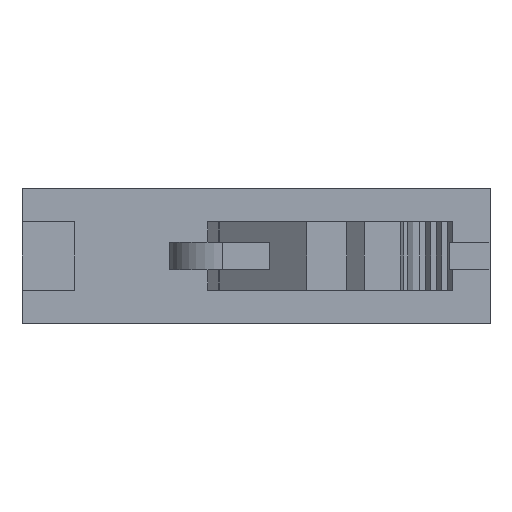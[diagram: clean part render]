
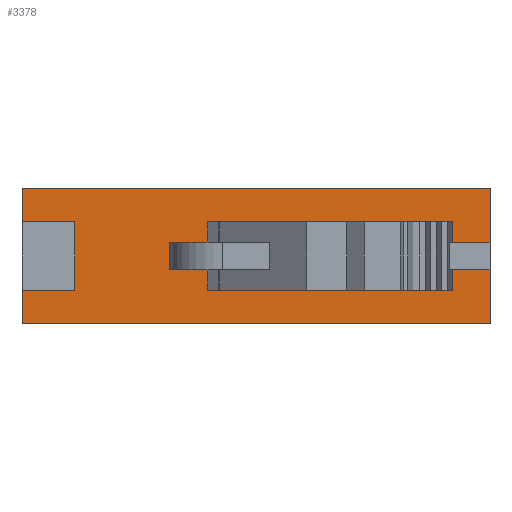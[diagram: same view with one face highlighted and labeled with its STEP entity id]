
A CAD part, front view. The second image highlights one B-rep face of the part: STEP entity #3378.
In plain terms, the highlighted planar face has unit normal (0, -1, 0).
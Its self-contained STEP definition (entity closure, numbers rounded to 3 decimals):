
#21=DIRECTION('',(0.,0.,-1.));
#22=VECTOR('',#21,6.2);
#23=CARTESIAN_POINT('',(4.8,8.9,-3.));
#24=LINE('',#23,#22);
#25=DIRECTION('',(1.,0.,0.));
#26=VECTOR('',#25,4.8);
#27=CARTESIAN_POINT('',(0.,8.9,-9.2));
#28=LINE('',#27,#26);
#29=DIRECTION('',(1.,0.,0.));
#30=VECTOR('',#29,4.8);
#31=CARTESIAN_POINT('',(0.,8.9,-3.));
#32=LINE('',#31,#30);
#33=DIRECTION('',(1.,0.,0.));
#34=VECTOR('',#33,42.5);
#35=CARTESIAN_POINT('',(0.,8.9,0.));
#36=LINE('',#35,#34);
#37=DIRECTION('',(-1.,0.,0.));
#38=VECTOR('',#37,42.5);
#39=CARTESIAN_POINT('',(42.5,8.9,-12.2));
#40=LINE('',#39,#38);
#133=DIRECTION('',(-1.,0.,0.));
#134=VECTOR('',#133,22.238);
#135=CARTESIAN_POINT('',(39.1,8.9,-9.2));
#136=LINE('',#135,#134);
#149=DIRECTION('',(0.,0.,-1.));
#150=VECTOR('',#149,3.);
#151=CARTESIAN_POINT('',(0.,8.9,-9.2));
#152=LINE('',#151,#150);
#165=DIRECTION('',(0.,0.,-1.));
#166=VECTOR('',#165,3.);
#167=CARTESIAN_POINT('',(0.,8.9,0.));
#168=LINE('',#167,#166);
#1044=DIRECTION('',(0.,0.,1.));
#1045=VECTOR('',#1044,4.85);
#1046=CARTESIAN_POINT('',(42.5,8.9,-12.2));
#1047=LINE('',#1046,#1045);
#1056=DIRECTION('',(0.,0.,1.));
#1057=VECTOR('',#1056,4.85);
#1058=CARTESIAN_POINT('',(42.5,8.9,-4.85));
#1059=LINE('',#1058,#1057);
#1072=DIRECTION('',(-1.,0.,0.));
#1073=VECTOR('',#1072,2.8);
#1074=CARTESIAN_POINT('',(42.5,8.9,-7.35));
#1075=LINE('',#1074,#1073);
#1108=DIRECTION('',(-1.,0.,0.));
#1109=VECTOR('',#1108,3.462);
#1110=CARTESIAN_POINT('',(16.862,8.9,-7.35));
#1111=LINE('',#1110,#1109);
#1121=DIRECTION('',(0.,0.,-1.));
#1122=VECTOR('',#1121,2.5);
#1123=CARTESIAN_POINT('',(39.7,8.9,-4.85));
#1124=LINE('',#1123,#1122);
#1129=DIRECTION('',(-1.,0.,0.));
#1130=VECTOR('',#1129,2.8);
#1131=CARTESIAN_POINT('',(42.5,8.9,-4.85));
#1132=LINE('',#1131,#1130);
#1150=DIRECTION('',(-1.,0.,0.));
#1151=VECTOR('',#1150,3.462);
#1152=CARTESIAN_POINT('',(16.862,8.9,-4.85));
#1153=LINE('',#1152,#1151);
#1254=DIRECTION('',(0.,0.,-1.));
#1255=VECTOR('',#1254,6.2);
#1256=CARTESIAN_POINT('',(39.1,8.9,-3.));
#1257=LINE('',#1256,#1255);
#1286=DIRECTION('',(1.,0.,0.));
#1287=VECTOR('',#1286,22.238);
#1288=CARTESIAN_POINT('',(16.862,8.9,-3.));
#1289=LINE('',#1288,#1287);
#1382=DIRECTION('',(0.,0.,1.));
#1383=VECTOR('',#1382,1.85);
#1384=CARTESIAN_POINT('',(16.862,8.9,-9.2));
#1385=LINE('',#1384,#1383);
#1390=DIRECTION('',(0.,0.,1.));
#1391=VECTOR('',#1390,1.85);
#1392=CARTESIAN_POINT('',(16.862,8.9,-4.85));
#1393=LINE('',#1392,#1391);
#1406=DIRECTION('',(0.,0.,-1.));
#1407=VECTOR('',#1406,2.5);
#1408=CARTESIAN_POINT('',(13.4,8.9,-4.85));
#1409=LINE('',#1408,#1407);
#2505=CARTESIAN_POINT('',(0.,8.9,-12.2));
#2506=VERTEX_POINT('',#2505);
#2507=CARTESIAN_POINT('',(42.5,8.9,-12.2));
#2508=VERTEX_POINT('',#2507);
#2757=CARTESIAN_POINT('',(42.5,8.9,0.));
#2758=VERTEX_POINT('',#2757);
#2759=CARTESIAN_POINT('',(0.,8.9,0.));
#2760=VERTEX_POINT('',#2759);
#3063=CARTESIAN_POINT('',(42.5,8.9,-4.85));
#3064=CARTESIAN_POINT('',(39.7,8.9,-4.85));
#3065=VERTEX_POINT('',#3063);
#3066=VERTEX_POINT('',#3064);
#3067=CARTESIAN_POINT('',(13.4,8.9,-4.85));
#3068=CARTESIAN_POINT('',(13.4,8.9,-7.35));
#3069=VERTEX_POINT('',#3067);
#3070=VERTEX_POINT('',#3068);
#3071=CARTESIAN_POINT('',(39.7,8.9,-7.35));
#3072=VERTEX_POINT('',#3071);
#3073=CARTESIAN_POINT('',(42.5,8.9,-7.35));
#3074=VERTEX_POINT('',#3073);
#3075=CARTESIAN_POINT('',(16.862,8.9,-3.));
#3076=VERTEX_POINT('',#3075);
#3077=CARTESIAN_POINT('',(16.862,8.9,-9.2));
#3078=VERTEX_POINT('',#3077);
#3211=CARTESIAN_POINT('',(0.,8.9,-9.2));
#3212=CARTESIAN_POINT('',(4.8,8.9,-9.2));
#3213=VERTEX_POINT('',#3211);
#3214=VERTEX_POINT('',#3212);
#3215=CARTESIAN_POINT('',(0.,8.9,-3.));
#3216=CARTESIAN_POINT('',(4.8,8.9,-3.));
#3217=VERTEX_POINT('',#3215);
#3218=VERTEX_POINT('',#3216);
#3225=CARTESIAN_POINT('',(16.862,8.9,-4.85));
#3226=VERTEX_POINT('',#3225);
#3233=CARTESIAN_POINT('',(16.862,8.9,-7.35));
#3234=VERTEX_POINT('',#3233);
#3235=CARTESIAN_POINT('',(39.1,8.9,-9.2));
#3236=VERTEX_POINT('',#3235);
#3237=CARTESIAN_POINT('',(39.1,8.9,-3.));
#3238=VERTEX_POINT('',#3237);
#3330=CARTESIAN_POINT('',(21.25,8.9,-10.5));
#3331=DIRECTION('',(0.,1.,0.));
#3332=DIRECTION('',(-1.,0.,0.));
#3333=AXIS2_PLACEMENT_3D('',#3330,#3331,#3332);
#3334=PLANE('',#3333);
#3336=ORIENTED_EDGE('',*,*,#3335,.T.);
#3337=ORIENTED_EDGE('',*,*,#3320,.F.);
#3339=ORIENTED_EDGE('',*,*,#3338,.F.);
#3341=ORIENTED_EDGE('',*,*,#3340,.F.);
#3343=ORIENTED_EDGE('',*,*,#3342,.T.);
#3345=ORIENTED_EDGE('',*,*,#3344,.F.);
#3347=ORIENTED_EDGE('',*,*,#3346,.T.);
#3349=ORIENTED_EDGE('',*,*,#3348,.T.);
#3351=ORIENTED_EDGE('',*,*,#3350,.F.);
#3353=ORIENTED_EDGE('',*,*,#3352,.F.);
#3355=ORIENTED_EDGE('',*,*,#3354,.T.);
#3357=ORIENTED_EDGE('',*,*,#3356,.F.);
#3358=EDGE_LOOP('',(#3336,#3337,#3339,#3341,#3343,#3345,#3347,#3349,#3351,#3353,
#3355,#3357));
#3359=FACE_OUTER_BOUND('',#3358,.F.);
#3361=ORIENTED_EDGE('',*,*,#3360,.F.);
#3363=ORIENTED_EDGE('',*,*,#3362,.F.);
#3365=ORIENTED_EDGE('',*,*,#3364,.F.);
#3367=ORIENTED_EDGE('',*,*,#3366,.F.);
#3369=ORIENTED_EDGE('',*,*,#3368,.T.);
#3371=ORIENTED_EDGE('',*,*,#3370,.T.);
#3373=ORIENTED_EDGE('',*,*,#3372,.F.);
#3375=ORIENTED_EDGE('',*,*,#3374,.F.);
#3376=EDGE_LOOP('',(#3361,#3363,#3365,#3367,#3369,#3371,#3373,#3375));
#3377=FACE_BOUND('',#3376,.F.);
#3378=ADVANCED_FACE('',(#3359,#3377),#3334,.F.);
#3320=EDGE_CURVE('',#3218,#3214,#24,.T.);
#3335=EDGE_CURVE('',#3213,#3214,#28,.T.);
#3338=EDGE_CURVE('',#3217,#3218,#32,.T.);
#3340=EDGE_CURVE('',#2760,#3217,#168,.T.);
#3342=EDGE_CURVE('',#2760,#2758,#36,.T.);
#3344=EDGE_CURVE('',#3065,#2758,#1059,.T.);
#3346=EDGE_CURVE('',#3065,#3066,#1132,.T.);
#3348=EDGE_CURVE('',#3066,#3072,#1124,.T.);
#3350=EDGE_CURVE('',#3074,#3072,#1075,.T.);
#3352=EDGE_CURVE('',#2508,#3074,#1047,.T.);
#3354=EDGE_CURVE('',#2508,#2506,#40,.T.);
#3356=EDGE_CURVE('',#3213,#2506,#152,.T.);
#3360=EDGE_CURVE('',#3236,#3078,#136,.T.);
#3362=EDGE_CURVE('',#3238,#3236,#1257,.T.);
#3364=EDGE_CURVE('',#3076,#3238,#1289,.T.);
#3366=EDGE_CURVE('',#3226,#3076,#1393,.T.);
#3368=EDGE_CURVE('',#3226,#3069,#1153,.T.);
#3370=EDGE_CURVE('',#3069,#3070,#1409,.T.);
#3372=EDGE_CURVE('',#3234,#3070,#1111,.T.);
#3374=EDGE_CURVE('',#3078,#3234,#1385,.T.);
